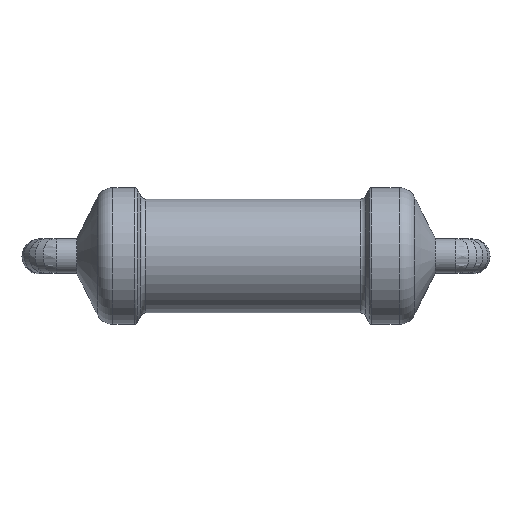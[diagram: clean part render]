
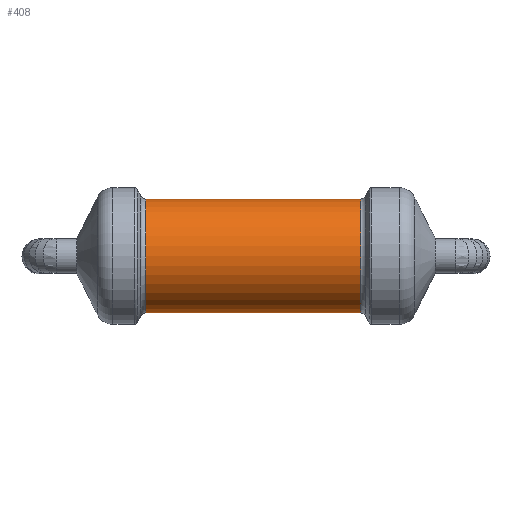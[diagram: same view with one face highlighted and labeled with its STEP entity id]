
A CAD part, top view. The second image highlights one B-rep face of the part: STEP entity #408.
In plain terms, the highlighted cylindrical face has radius 1 mm (diameter 2 mm), a full revolution.
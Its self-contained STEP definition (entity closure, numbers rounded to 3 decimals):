
#44=CYLINDRICAL_SURFACE('',#476,1.);
#59=LINE('',#739,#70);
#70=VECTOR('',#587,1.);
#90=FACE_OUTER_BOUND('',#114,.T.);
#114=EDGE_LOOP('',(#313,#314,#315,#316,#317,#318));
#145=CIRCLE('',#474,1.);
#146=CIRCLE('',#475,1.);
#147=CIRCLE('',#477,1.);
#148=CIRCLE('',#478,1.);
#188=VERTEX_POINT('',#730);
#189=VERTEX_POINT('',#732);
#190=VERTEX_POINT('',#736);
#191=VERTEX_POINT('',#737);
#234=EDGE_CURVE('',#189,#188,#145,.T.);
#235=EDGE_CURVE('',#188,#189,#146,.T.);
#236=EDGE_CURVE('',#190,#191,#147,.T.);
#237=EDGE_CURVE('',#190,#189,#59,.T.);
#238=EDGE_CURVE('',#191,#190,#148,.T.);
#313=ORIENTED_EDGE('',*,*,#236,.F.);
#314=ORIENTED_EDGE('',*,*,#237,.T.);
#315=ORIENTED_EDGE('',*,*,#234,.T.);
#316=ORIENTED_EDGE('',*,*,#235,.T.);
#317=ORIENTED_EDGE('',*,*,#237,.F.);
#318=ORIENTED_EDGE('',*,*,#238,.F.);
#408=ADVANCED_FACE('',(#90),#44,.T.);
#474=AXIS2_PLACEMENT_3D('',#733,#579,#580);
#475=AXIS2_PLACEMENT_3D('',#734,#581,#582);
#476=AXIS2_PLACEMENT_3D('',#735,#583,#584);
#477=AXIS2_PLACEMENT_3D('',#738,#585,#586);
#478=AXIS2_PLACEMENT_3D('',#740,#588,#589);
#579=DIRECTION('center_axis',(1.,0.,0.));
#580=DIRECTION('ref_axis',(0.,0.,-1.));
#581=DIRECTION('center_axis',(1.,0.,0.));
#582=DIRECTION('ref_axis',(0.,0.,-1.));
#583=DIRECTION('center_axis',(1.,0.,0.));
#584=DIRECTION('ref_axis',(0.,1.,0.));
#585=DIRECTION('center_axis',(1.,0.,0.));
#586=DIRECTION('ref_axis',(0.,0.,-1.));
#587=DIRECTION('',(-1.,0.,0.));
#588=DIRECTION('center_axis',(1.,0.,0.));
#589=DIRECTION('ref_axis',(0.,0.,-1.));
#730=CARTESIAN_POINT('',(-1.938,0.,1.));
#732=CARTESIAN_POINT('',(-1.938,-1.,0.));
#733=CARTESIAN_POINT('Origin',(-1.938,0.,0.));
#734=CARTESIAN_POINT('Origin',(-1.938,0.,0.));
#735=CARTESIAN_POINT('Origin',(-0.05,0.,0.));
#736=CARTESIAN_POINT('',(1.838,-1.,0.));
#737=CARTESIAN_POINT('',(1.838,0.,1.));
#738=CARTESIAN_POINT('Origin',(1.838,0.,0.));
#739=CARTESIAN_POINT('',(-0.05,-1.,0.));
#740=CARTESIAN_POINT('Origin',(1.838,0.,0.));
